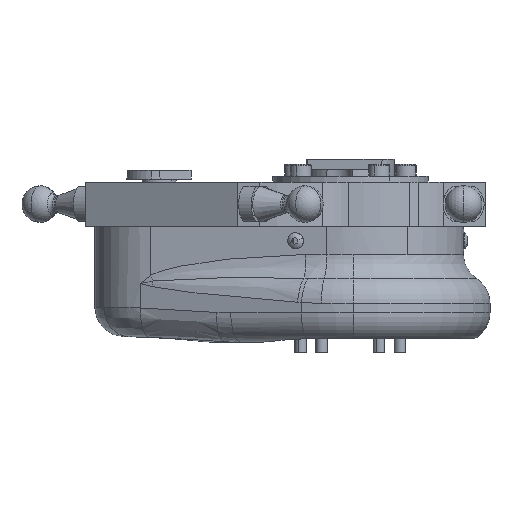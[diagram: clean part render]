
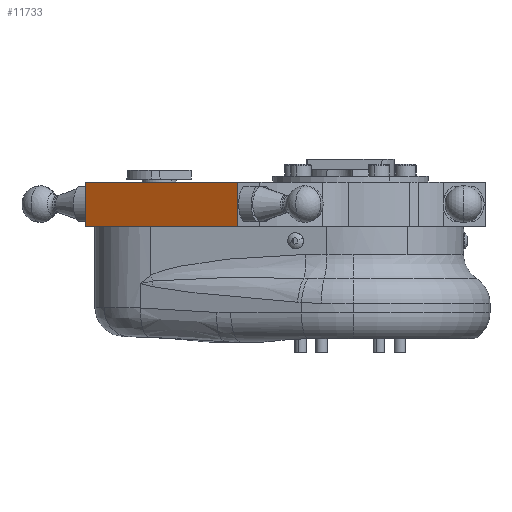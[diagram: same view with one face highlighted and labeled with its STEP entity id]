
A CAD part, front view. The second image highlights one B-rep face of the part: STEP entity #11733.
In plain terms, the highlighted planar face has unit normal (-0.5, -0.866, 0).
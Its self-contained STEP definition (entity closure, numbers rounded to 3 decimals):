
#1083 = DIRECTION ( 'NONE',  ( 0., 0., -1. ) ) ;
#1380 = VECTOR ( 'NONE', #31600, 1000. ) ;
#2857 = LINE ( 'NONE', #19987, #31461 ) ;
#2883 = CARTESIAN_POINT ( 'NONE',  ( -62.731, -48.655, -854.241 ) ) ;
#3442 = CARTESIAN_POINT ( 'NONE',  ( -10.769, -78.655, -854.241 ) ) ;
#3631 = LINE ( 'NONE', #3442, #1380 ) ;
#3896 = EDGE_CURVE ( 'NONE', #6277, #11341, #22565, .T. ) ;
#4623 = CARTESIAN_POINT ( 'NONE',  ( -62.731, -48.655, -869.241 ) ) ;
#4660 = CARTESIAN_POINT ( 'NONE',  ( -10.769, -78.655, -854.241 ) ) ;
#6277 = VERTEX_POINT ( 'NONE', #25739 ) ;
#8707 = EDGE_CURVE ( 'NONE', #35486, #18278, #3631, .T. ) ;
#8725 = DIRECTION ( 'NONE',  ( -0.866, 0.5, 0. ) ) ;
#11057 = AXIS2_PLACEMENT_3D ( 'NONE', #31651, #17476, #1083 ) ;
#11130 = VECTOR ( 'NONE', #14108, 1000. ) ;
#11341 = VERTEX_POINT ( 'NONE', #4623 ) ;
#11733 = ADVANCED_FACE ( 'NONE', ( #29293 ), #26316, .T. ) ;
#12926 = ORIENTED_EDGE ( 'NONE', *, *, #31993, .T. ) ;
#13830 = ORIENTED_EDGE ( 'NONE', *, *, #3896, .T. ) ;
#14108 = DIRECTION ( 'NONE',  ( 0., 0., -1. ) ) ;
#14260 = DIRECTION ( 'NONE',  ( 0.866, -0.5, 0. ) ) ;
#17476 = DIRECTION ( 'NONE',  ( -0.5, -0.866, 0. ) ) ;
#18278 = VERTEX_POINT ( 'NONE', #29961 ) ;
#19987 = CARTESIAN_POINT ( 'NONE',  ( -36.75, -63.655, -869.241 ) ) ;
#20145 = LINE ( 'NONE', #22711, #30857 ) ;
#21484 = ORIENTED_EDGE ( 'NONE', *, *, #25414, .T. ) ;
#22565 = LINE ( 'NONE', #2883, #11130 ) ;
#22711 = CARTESIAN_POINT ( 'NONE',  ( -36.75, -63.655, -854.241 ) ) ;
#25414 = EDGE_CURVE ( 'NONE', #35486, #6277, #20145, .T. ) ;
#25739 = CARTESIAN_POINT ( 'NONE',  ( -62.731, -48.655, -854.241 ) ) ;
#26316 = PLANE ( 'NONE',  #11057 ) ;
#28866 = EDGE_LOOP ( 'NONE', ( #13830, #12926, #35745, #21484 ) ) ;
#29293 = FACE_OUTER_BOUND ( 'NONE', #28866, .T. ) ;
#29961 = CARTESIAN_POINT ( 'NONE',  ( -10.769, -78.655, -869.241 ) ) ;
#30857 = VECTOR ( 'NONE', #8725, 1000. ) ;
#31461 = VECTOR ( 'NONE', #14260, 1000. ) ;
#31600 = DIRECTION ( 'NONE',  ( 0., 0., -1. ) ) ;
#31651 = CARTESIAN_POINT ( 'NONE',  ( -36.75, -63.655, -854.241 ) ) ;
#31993 = EDGE_CURVE ( 'NONE', #11341, #18278, #2857, .T. ) ;
#35486 = VERTEX_POINT ( 'NONE', #4660 ) ;
#35745 = ORIENTED_EDGE ( 'NONE', *, *, #8707, .F. ) ;
